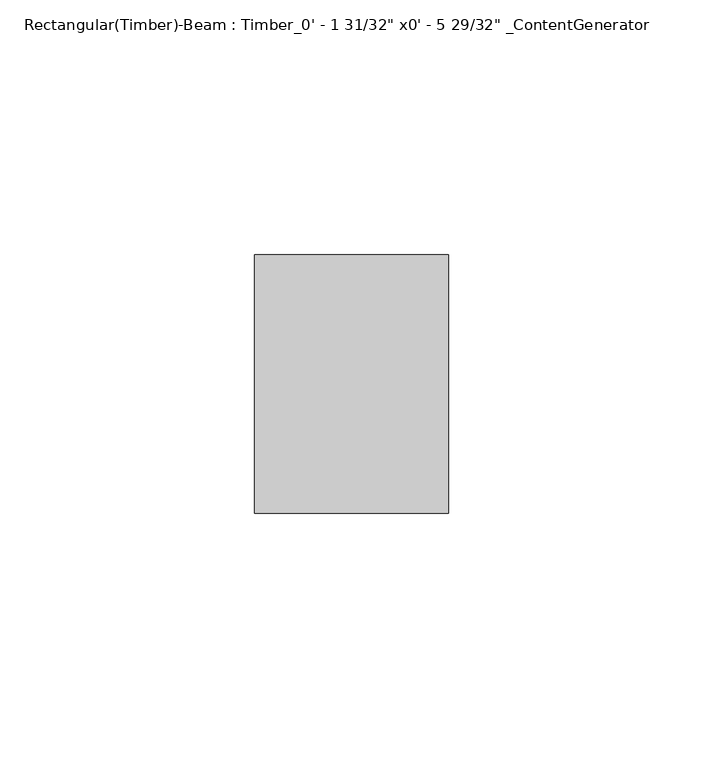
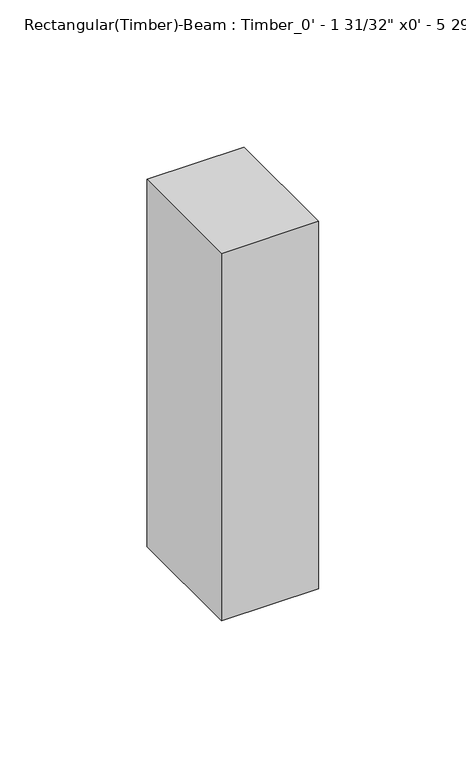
"""IFC4 building model written with IfcOpenShell, lengths in millimetres: beam geometry."""

from ifc_helpers import new_model, si_unit, frame, origin, place, context, project, spatial, polyline, outline, extrude, source, transform, mapped, element, save


def beam_c924ee9a(model_context):
    return source(origin(), model_context, "Body", "SweptSolid", [
        extrude(outline(polyline([(31.7549994, 25.4), (31.7549994, -25.4), (-6.355, -25.4), (-6.355, 25.4), (31.7549994, 25.4)])), frame((0.0, 0.0, -76.2), z_axis=(0.0, 0.0, 1.0), x_axis=(1.0, 0.0, 0.0)), (0.0, 0.0, 1.0), 152.4),
    ])


if __name__ == "__main__":
    model = new_model("IFC4")
    model_context = context("Model", 3, world=origin())
    ifc_project = project(units=[si_unit("LENGTHUNIT", "METRE", prefix="MILLI")], contexts=[model_context])
    site = spatial("IfcSite", under=ifc_project)
    building = spatial("IfcBuilding", under=site)
    placement = place(None, origin())
    beam_shape = beam_c924ee9a(model_context)
    element("IfcBeam", 1, ObjectType="Rectangular(Timber)-Beam : Timber_0' - 1 31/32\" x0' - 5 29/32\" _ContentGenerator", at=placement, inside=building, context=model_context, shape_type="MappedRepresentation", body=[
        mapped(beam_shape, transform((0.0, 0.0, 0.0), x_axis=(1.0, 0.0, 0.0), y_axis=(0.0, 1.0, 0.0), z_axis=(0.0, 0.0, 1.0))),
    ])
    save(model, "model.ifc")
